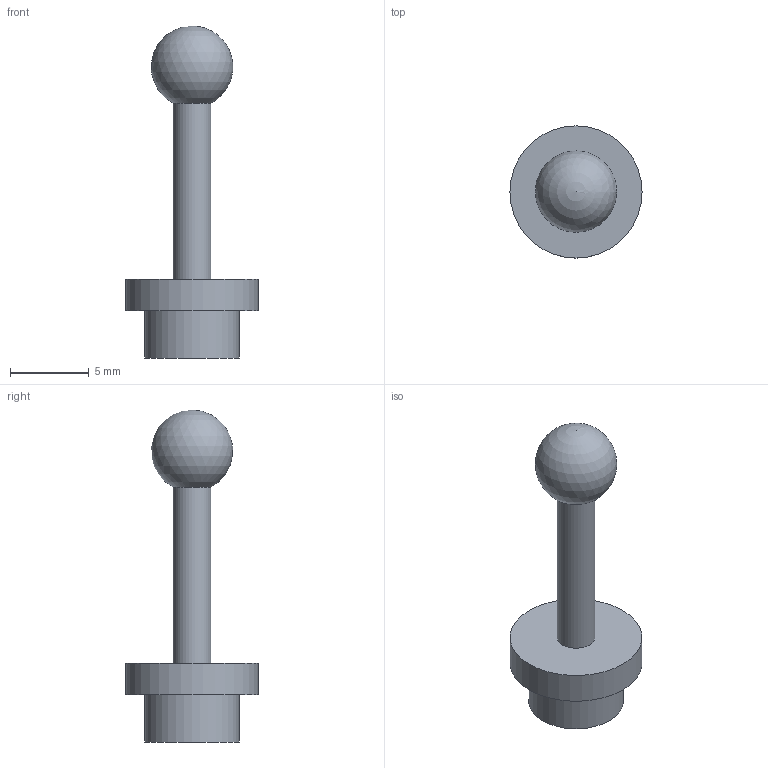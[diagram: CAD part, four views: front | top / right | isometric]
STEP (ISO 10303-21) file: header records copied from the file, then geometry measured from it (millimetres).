
FILE_DESCRIPTION(('FreeCAD Model'),'2;1');
FILE_NAME('Open CASCADE Shape Model','2026-11-08T20:38:38',('FreeCAD'),( 'FreeCAD'),'Open CASCADE STEP processor 7.8','FreeCAD','Unknown');
FILE_SCHEMA(('AUTOMOTIVE_DESIGN { 1 0 10303 214 1 1 1 1 }'));
Length unit declared in the file: millimetre
Products named in the file (1): Open CASCADE STEP translator 7.8 9
Bounding box: 8.4 x 8.4 x 21.1 mm (x, y, z)
Volume: 319.2 mm3; surface area: 380.2 mm2
Topology: 1 solids, 1 shells, 7 faces, 11 edges, 7 vertices
Faces by surface type: cylinder 3, plane 3, sphere 1
Full cylindrical faces by diameter (mm): 2.4 x1, 6 x1, 8.4 x1
Entity records: 169 total; most frequent: DIRECTION 33, CARTESIAN_POINT 25, ORIENTED_EDGE 20, AXIS2_PLACEMENT_3D 15, EDGE_CURVE 10, FACE_BOUND 9, EDGE_LOOP 9, ADVANCED_FACE 7
